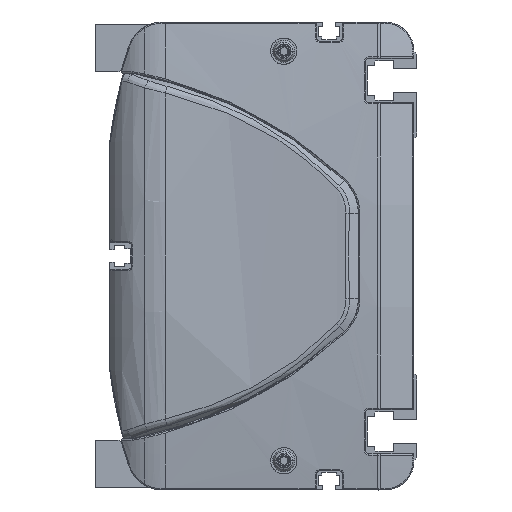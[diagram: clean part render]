
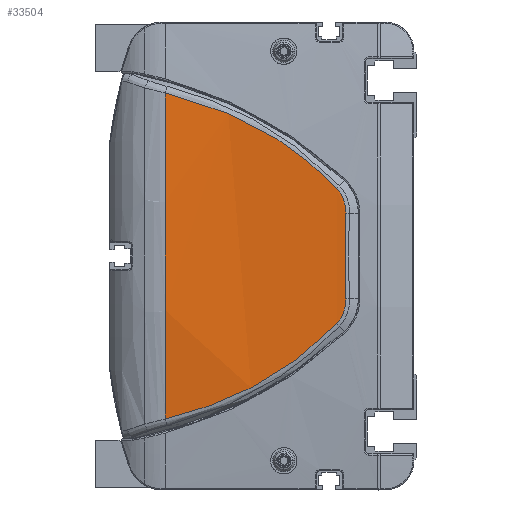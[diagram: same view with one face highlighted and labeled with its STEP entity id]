
A CAD part, left-side view. The second image highlights one B-rep face of the part: STEP entity #33504.
In plain terms, the highlighted cylindrical face has radius 600 mm (diameter 1200 mm), a partial arc.
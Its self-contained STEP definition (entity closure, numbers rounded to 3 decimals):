
#11336=CARTESIAN_POINT('',(-12.406,86.,
55.736));
#11337=CARTESIAN_POINT('',(-12.529,80.495,
54.41));
#11338=CARTESIAN_POINT('',(-12.828,69.636,
51.114));
#11339=CARTESIAN_POINT('',(-13.389,54.079,
44.179));
#11340=CARTESIAN_POINT('',(-14.01,39.709,
34.979));
#11341=CARTESIAN_POINT('',(-14.395,31.353,
27.243));
#11342=CARTESIAN_POINT('',(-14.555,27.451,
23.113));
#11344=CARTESIAN_POINT('',(-14.555,27.451,
23.113));
#11345=CARTESIAN_POINT('',(-14.598,26.394,
21.994));
#11346=CARTESIAN_POINT('',(-14.695,24.746,
19.315));
#11347=CARTESIAN_POINT('',(-14.783,24.276,
16.208));
#11348=CARTESIAN_POINT('',(-14.821,24.351,
14.67));
#11350=CARTESIAN_POINT('',(-14.821,24.351,
14.67));
#11351=CARTESIAN_POINT('',(-14.9,24.51,
11.413));
#11352=CARTESIAN_POINT('',(-15.007,24.721,
4.895));
#11353=CARTESIAN_POINT('',(-15.007,24.721,
-4.895));
#11354=CARTESIAN_POINT('',(-14.9,24.51,
-11.413));
#11355=CARTESIAN_POINT('',(-14.821,24.351,
-14.67));
#11357=CARTESIAN_POINT('',(-14.821,24.351,
-14.67));
#11358=CARTESIAN_POINT('',(-14.783,24.276,
-16.208));
#11359=CARTESIAN_POINT('',(-14.695,24.746,
-19.315));
#11360=CARTESIAN_POINT('',(-14.598,26.394,
-21.995));
#11361=CARTESIAN_POINT('',(-14.555,27.451,
-23.113));
#11363=CARTESIAN_POINT('',(-14.555,27.451,
-23.113));
#11364=CARTESIAN_POINT('',(-14.395,31.353,
-27.243));
#11365=CARTESIAN_POINT('',(-14.01,39.709,
-34.979));
#11366=CARTESIAN_POINT('',(-13.389,54.079,
-44.179));
#11367=CARTESIAN_POINT('',(-12.828,69.636,
-51.114));
#11368=CARTESIAN_POINT('',(-12.529,80.495,
-54.41));
#11369=CARTESIAN_POINT('',(-12.406,86.,
-55.736));
#11371=CARTESIAN_POINT('',(585.,86.,0.));
#11372=DIRECTION('',(0.,1.,0.));
#11373=DIRECTION('',(-0.996,0.,-0.093));
#11374=AXIS2_PLACEMENT_3D('',#11371,#11372,#11373);
#11387=CARTESIAN_POINT('',(-12.406,86.,
55.736));
#13618=VERTEX_POINT('',#11387);
#13619=CARTESIAN_POINT('',(-12.406,86.,
-55.736));
#13620=VERTEX_POINT('',#13619);
#13670=VERTEX_POINT('',#11342);
#13671=VERTEX_POINT('',#11348);
#13672=VERTEX_POINT('',#11355);
#13673=VERTEX_POINT('',#11361);
#33486=CARTESIAN_POINT('',(585.,87.45,0.));
#33487=DIRECTION('',(0.,-1.,0.));
#33488=DIRECTION('',(0.,0.,-1.));
#33489=AXIS2_PLACEMENT_3D('',#33486,#33487,#33488);
#33490=CYLINDRICAL_SURFACE('',#33489,600.);
#33492=ORIENTED_EDGE('',*,*,#33491,.T.);
#33494=ORIENTED_EDGE('',*,*,#33493,.T.);
#33495=ORIENTED_EDGE('',*,*,#33476,.T.);
#33497=ORIENTED_EDGE('',*,*,#33496,.T.);
#33499=ORIENTED_EDGE('',*,*,#33498,.T.);
#33501=ORIENTED_EDGE('',*,*,#33500,.T.);
#33502=EDGE_LOOP('',(#33492,#33494,#33495,#33497,#33499,#33501));
#33503=FACE_OUTER_BOUND('',#33502,.F.);
#33504=ADVANCED_FACE('',(#33503),#33490,.T.);
#11343=B_SPLINE_CURVE_WITH_KNOTS('',3,(#11336,#11337,#11338,#11339,#11340,
#11341,#11342),.UNSPECIFIED.,.F.,.F.,(4,1,1,1,4),(0.,0.25,0.5,0.75,
1.),.UNSPECIFIED.);
#11349=B_SPLINE_CURVE_WITH_KNOTS('',3,(#11344,#11345,#11346,#11347,#11348),
.UNSPECIFIED.,.F.,.F.,(4,1,4),(0.,0.5,1.),.UNSPECIFIED.);
#11356=B_SPLINE_CURVE_WITH_KNOTS('',3,(#11350,#11351,#11352,#11353,#11354,
#11355),.UNSPECIFIED.,.F.,.F.,(4,1,1,4),(0.,0.333,
0.667,1.),.UNSPECIFIED.);
#11362=B_SPLINE_CURVE_WITH_KNOTS('',3,(#11357,#11358,#11359,#11360,#11361),
.UNSPECIFIED.,.F.,.F.,(4,1,4),(0.,0.5,1.),.UNSPECIFIED.);
#11370=B_SPLINE_CURVE_WITH_KNOTS('',3,(#11363,#11364,#11365,#11366,#11367,
#11368,#11369),.UNSPECIFIED.,.F.,.F.,(4,1,1,1,4),(0.,0.25,0.5,0.75,
1.),.UNSPECIFIED.);
#11375=CIRCLE('',#11374,600.);
#33476=EDGE_CURVE('',#13671,#13672,#11356,.T.);
#33491=EDGE_CURVE('',#13618,#13670,#11343,.T.);
#33493=EDGE_CURVE('',#13670,#13671,#11349,.T.);
#33496=EDGE_CURVE('',#13672,#13673,#11362,.T.);
#33498=EDGE_CURVE('',#13673,#13620,#11370,.T.);
#33500=EDGE_CURVE('',#13620,#13618,#11375,.T.);
